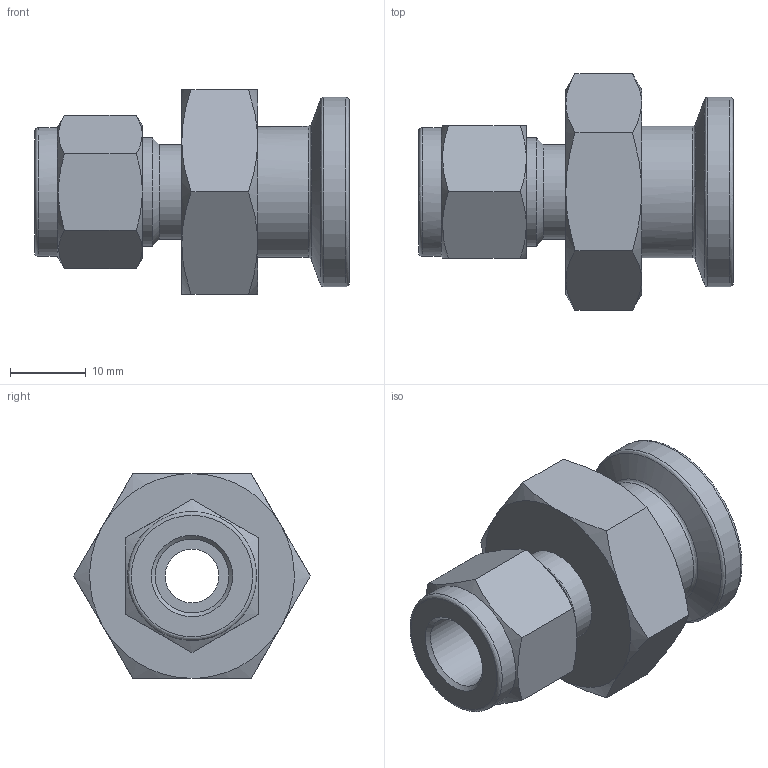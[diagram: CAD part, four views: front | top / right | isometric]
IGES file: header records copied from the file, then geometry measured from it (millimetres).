
Global section: file name: SSFA-6-8SA; native system: Autodesk Inventor 2016; preprocessor: unknown; author: DESIGNPC2; date: 20160312.144343; units: millimetre
Bounding box: 41.51 x 31.18 x 27 mm (x, y, z)
Volume: 11796.5 mm3; surface area: 5683.3 mm2
Topology: 1 solids, 1 shells, 59 faces, 160 edges, 108 vertices
Faces by surface type: bspline 59
